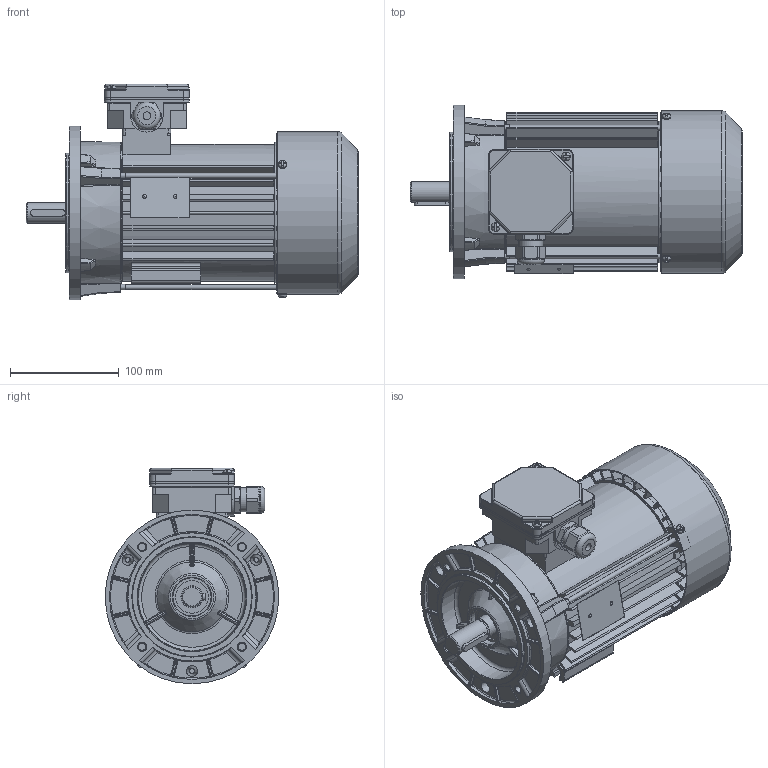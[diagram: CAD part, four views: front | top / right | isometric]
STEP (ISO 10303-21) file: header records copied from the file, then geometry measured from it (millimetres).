
FILE_DESCRIPTION(/* description */ ('Unknown'),/* implementation_level */ '2;1');
FILE_NAME(/* name */ '2SIEK80-6B1',/* time_stamp */ '2021-04-12T14:58:31+02:00',/* author */ ('Unknown'),/* organization */ ('Unknown'),/* preprocessor_version */ 'ST-DEVELOPER v16.7',/* originating_system */ 'Solid Edge',/* authorisation */ 'Unknown');
FILE_SCHEMA (('AUTOMOTIVE_DESIGN {1 0 10303 214 3 1 1}'));
Products named in the file (1): 2SIEK80-6B1
Bounding box: 305.79 x 160 x 198.5 mm (x, y, z)
Volume: 974539 mm3; surface area: 548476.2 mm2
Topology: 4 solids, 4 shells, 2697 faces, 7414 edges, 4733 vertices
Faces by surface type: plane 1187, cylinder 801, bspline 394, torus 150, cone 139, sphere 26
Full cylindrical faces by diameter (mm): 2 x2, 2.4 x2, 3 x1, 3.7 x8, 4 x3, 4.2 x3, 4.5 x1, 4.6 x3, 4.8 x2, 5 x5, 5.5 x3, 6.8 x4, 7 x1, 8 x9, 18.598 x1, 18.998 x1, 19.298 x1, 19.498 x1, 19.898 x1, 19.948 x1, 19.998 x2, 20.4 x2, 22.3 x1, 25 x1, 25.497 x1, 25.647 x1, 25.997 x3, 26.047 x1, 28.799 x4, 30 x1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
Entity records: 107880 total; most frequent: CARTESIAN_POINT 26018, ORIENTED_EDGE 14030, DIRECTION 12550, EDGE_CURVE 7015, AXIS2_PLACEMENT_3D 4684, VERTEX_POINT 4603, LINE 3182, VECTOR 3182
